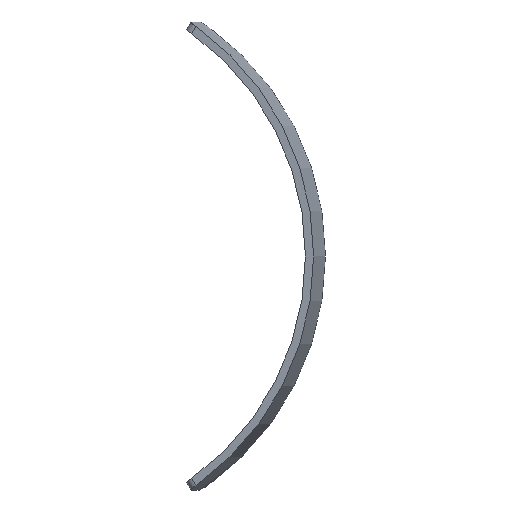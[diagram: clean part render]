
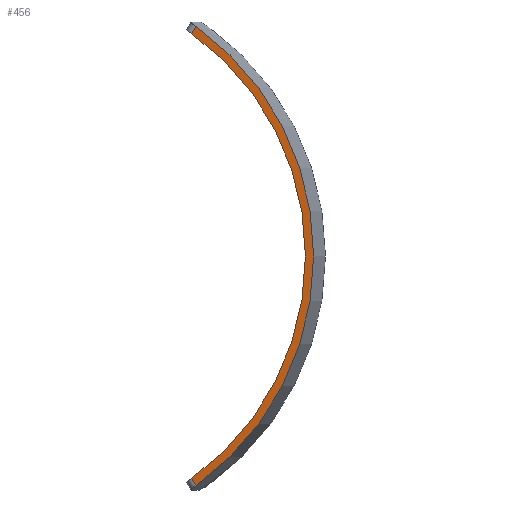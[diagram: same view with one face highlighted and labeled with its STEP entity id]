
A CAD part, front view. The second image highlights one B-rep face of the part: STEP entity #456.
In plain terms, the highlighted planar face has unit normal (-0.233, -0.972, 0).
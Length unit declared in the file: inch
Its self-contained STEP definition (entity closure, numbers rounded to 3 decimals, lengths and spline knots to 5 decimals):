
#16 = FACE_OUTER_BOUND ( 'NONE', #477, .T. ) ;
#81 = DIRECTION ( 'NONE',  ( -0.525, 0.126, -0.842 ) ) ;
#88 = ORIENTED_EDGE ( 'NONE', *, *, #254, .T. ) ;
#120 = VERTEX_POINT ( 'NONE', #245 ) ;
#134 = ORIENTED_EDGE ( 'NONE', *, *, #487, .T. ) ;
#139 = EDGE_CURVE ( 'NONE', #302, #180, #292, .T. ) ;
#163 = DIRECTION ( 'NONE',  ( 0.233, 0.972, 0. ) ) ;
#180 = VERTEX_POINT ( 'NONE', #295 ) ;
#183 = ORIENTED_EDGE ( 'NONE', *, *, #184, .T. ) ;
#184 = EDGE_CURVE ( 'NONE', #302, #515, #243, .T. ) ;
#204 = AXIS2_PLACEMENT_3D ( 'NONE', #248, #163, #422 ) ;
#219 = AXIS2_PLACEMENT_3D ( 'NONE', #260, #252, #351 ) ;
#243 = LINE ( 'NONE', #471, #320 ) ;
#245 = CARTESIAN_POINT ( 'NONE',  ( 133.22109, -35.0688, -26.34898 ) ) ;
#248 = CARTESIAN_POINT ( 'NONE',  ( 115.62436, -30.8442, 0. ) ) ;
#252 = DIRECTION ( 'NONE',  ( -0.233, -0.972, 0. ) ) ;
#254 = EDGE_CURVE ( 'NONE', #120, #180, #526, .T. ) ;
#260 = CARTESIAN_POINT ( 'NONE',  ( 115.62436, -30.8442, 0. ) ) ;
#266 = CIRCLE ( 'NONE', #426, 31.965 ) ;
#292 = CIRCLE ( 'NONE', #204, 32.965 ) ;
#295 = CARTESIAN_POINT ( 'NONE',  ( 133.74649, -35.19494, -27.191 ) ) ;
#302 = VERTEX_POINT ( 'NONE', #308 ) ;
#308 = CARTESIAN_POINT ( 'NONE',  ( 133.74649, -35.19494, 27.191 ) ) ;
#320 = VECTOR ( 'NONE', #81, 39.37008 ) ;
#321 = DIRECTION ( 'NONE',  ( -0.972, 0.233, 0. ) ) ;
#332 = ORIENTED_EDGE ( 'NONE', *, *, #139, .F. ) ;
#338 = CARTESIAN_POINT ( 'NONE',  ( 116.44272, -31.04067, 0.54008 ) ) ;
#351 = DIRECTION ( 'NONE',  ( 0.972, -0.233, 0. ) ) ;
#359 = CARTESIAN_POINT ( 'NONE',  ( 133.22109, -35.0688, 26.34898 ) ) ;
#362 = DIRECTION ( 'NONE',  ( 0.233, 0.972, 0. ) ) ;
#391 = PLANE ( 'NONE',  #219 ) ;
#422 = DIRECTION ( 'NONE',  ( -0.972, 0.233, 0. ) ) ;
#424 = VECTOR ( 'NONE', #428, 39.37008 ) ;
#426 = AXIS2_PLACEMENT_3D ( 'NONE', #457, #362, #321 ) ;
#428 = DIRECTION ( 'NONE',  ( 0.525, -0.126, -0.842 ) ) ;
#456 = ADVANCED_FACE ( 'NONE', ( #16 ), #391, .T. ) ;
#457 = CARTESIAN_POINT ( 'NONE',  ( 115.62436, -30.8442, 0. ) ) ;
#471 = CARTESIAN_POINT ( 'NONE',  ( 116.44272, -31.04067, -0.54008 ) ) ;
#477 = EDGE_LOOP ( 'NONE', ( #134, #88, #332, #183 ) ) ;
#487 = EDGE_CURVE ( 'NONE', #515, #120, #266, .T. ) ;
#515 = VERTEX_POINT ( 'NONE', #359 ) ;
#526 = LINE ( 'NONE', #338, #424 ) ;
